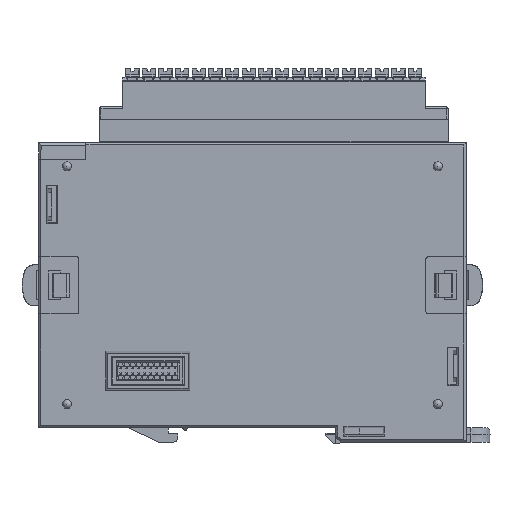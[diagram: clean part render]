
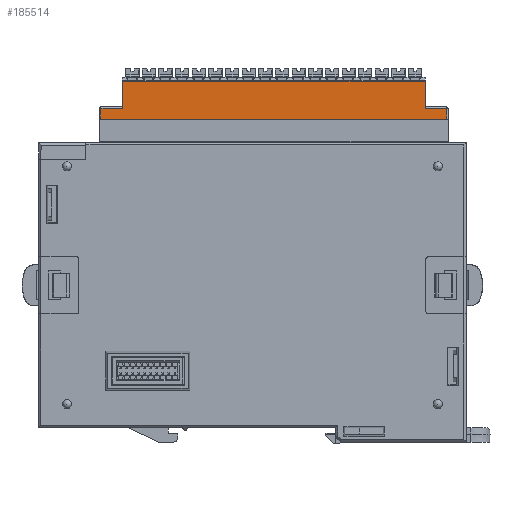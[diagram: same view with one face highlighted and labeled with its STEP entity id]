
A CAD part, left-side view. The second image highlights one B-rep face of the part: STEP entity #185514.
In plain terms, the highlighted planar face has unit normal (-1, 0, 0).
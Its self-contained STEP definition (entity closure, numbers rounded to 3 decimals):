
#2275 = ORIENTED_EDGE ( 'NONE', *, *, #194653, .T. ) ;
#6771 = VERTEX_POINT ( 'NONE', #239231 ) ;
#7921 = DIRECTION ( 'NONE',  ( 0., -1., 0. ) ) ;
#9521 = CARTESIAN_POINT ( 'NONE',  ( -17.55, 27.35, 17.2 ) ) ;
#19833 = CARTESIAN_POINT ( 'NONE',  ( -17.55, -36.35, 22.9 ) ) ;
#21238 = VERTEX_POINT ( 'NONE', #265068 ) ;
#24834 = DIRECTION ( 'NONE',  ( 0., 0., 1. ) ) ;
#25476 = CARTESIAN_POINT ( 'NONE',  ( -17.55, 23.5, 22.9 ) ) ;
#26830 = LINE ( 'NONE', #25476, #36660 ) ;
#30970 = LINE ( 'NONE', #192987, #73993 ) ;
#32727 = EDGE_CURVE ( 'NONE', #40468, #43205, #247267, .T. ) ;
#35688 = DIRECTION ( 'NONE',  ( 0., 1., 0. ) ) ;
#36660 = VECTOR ( 'NONE', #45920, 1000. ) ;
#40468 = VERTEX_POINT ( 'NONE', #228531 ) ;
#43205 = VERTEX_POINT ( 'NONE', #260724 ) ;
#45920 = DIRECTION ( 'NONE',  ( 0., 1., 0. ) ) ;
#54736 = VERTEX_POINT ( 'NONE', #246635 ) ;
#58160 = VERTEX_POINT ( 'NONE', #105611 ) ;
#58316 = CARTESIAN_POINT ( 'NONE',  ( -17.55, 31.85, 14.9 ) ) ;
#62181 = VERTEX_POINT ( 'NONE', #132135 ) ;
#67444 = EDGE_CURVE ( 'NONE', #6771, #58160, #169223, .T. ) ;
#73993 = VECTOR ( 'NONE', #7921, 1000. ) ;
#74912 = DIRECTION ( 'NONE',  ( 1., 0., 0. ) ) ;
#78505 = DIRECTION ( 'NONE',  ( 0., 0., -1. ) ) ;
#80635 = CARTESIAN_POINT ( 'NONE',  ( -17.55, 27.35, 17.2 ) ) ;
#82216 = EDGE_CURVE ( 'NONE', #43205, #6771, #140084, .T. ) ;
#93344 = ORIENTED_EDGE ( 'NONE', *, *, #32727, .T. ) ;
#104105 = EDGE_CURVE ( 'NONE', #21238, #40468, #266768, .T. ) ;
#104201 = LINE ( 'NONE', #19833, #151389 ) ;
#105611 = CARTESIAN_POINT ( 'NONE',  ( -17.55, -40.85, 17.2 ) ) ;
#110787 = EDGE_LOOP ( 'NONE', ( #175052, #198365, #175965, #2275, #156485, #120639, #93344, #143306 ) ) ;
#119254 = CARTESIAN_POINT ( 'NONE',  ( -17.55, -36.35, 17.2 ) ) ;
#119526 = VECTOR ( 'NONE', #168125, 1000. ) ;
#120639 = ORIENTED_EDGE ( 'NONE', *, *, #104105, .T. ) ;
#120884 = CARTESIAN_POINT ( 'NONE',  ( -17.55, 31.85, 17.2 ) ) ;
#123040 = VECTOR ( 'NONE', #175574, 1000. ) ;
#132135 = CARTESIAN_POINT ( 'NONE',  ( -17.55, -36.35, 22.9 ) ) ;
#138143 = EDGE_CURVE ( 'NONE', #21238, #54736, #195998, .T. ) ;
#140084 = LINE ( 'NONE', #58316, #119526 ) ;
#143306 = ORIENTED_EDGE ( 'NONE', *, *, #82216, .T. ) ;
#145779 = VECTOR ( 'NONE', #35688, 1000. ) ;
#151389 = VECTOR ( 'NONE', #78505, 1000. ) ;
#156485 = ORIENTED_EDGE ( 'NONE', *, *, #138143, .F. ) ;
#160672 = PLANE ( 'NONE',  #201669 ) ;
#163307 = CARTESIAN_POINT ( 'NONE',  ( -17.55, -36.675, 18.9 ) ) ;
#168125 = DIRECTION ( 'NONE',  ( 0., -1., 0. ) ) ;
#169223 = LINE ( 'NONE', #246683, #204697 ) ;
#173450 = VECTOR ( 'NONE', #205219, 1000. ) ;
#175052 = ORIENTED_EDGE ( 'NONE', *, *, #67444, .T. ) ;
#175574 = DIRECTION ( 'NONE',  ( 0., 0., 1. ) ) ;
#175965 = ORIENTED_EDGE ( 'NONE', *, *, #266025, .F. ) ;
#185514 = ADVANCED_FACE ( 'NONE', ( #266390 ), #160672, .F. ) ;
#192987 = CARTESIAN_POINT ( 'NONE',  ( -17.55, -36.35, 17.2 ) ) ;
#194653 = EDGE_CURVE ( 'NONE', #62181, #54736, #26830, .T. ) ;
#195998 = LINE ( 'NONE', #9521, #123040 ) ;
#198365 = ORIENTED_EDGE ( 'NONE', *, *, #241782, .F. ) ;
#201669 = AXIS2_PLACEMENT_3D ( 'NONE', #163307, #74912, #220461 ) ;
#204697 = VECTOR ( 'NONE', #24834, 1000. ) ;
#205219 = DIRECTION ( 'NONE',  ( 0., 0., -1. ) ) ;
#220461 = DIRECTION ( 'NONE',  ( 0., 1., 0. ) ) ;
#221495 = VERTEX_POINT ( 'NONE', #119254 ) ;
#228531 = CARTESIAN_POINT ( 'NONE',  ( -17.55, 31.85, 17.2 ) ) ;
#239231 = CARTESIAN_POINT ( 'NONE',  ( -17.55, -40.85, 14.9 ) ) ;
#241782 = EDGE_CURVE ( 'NONE', #221495, #58160, #30970, .T. ) ;
#246635 = CARTESIAN_POINT ( 'NONE',  ( -17.55, 27.35, 22.9 ) ) ;
#246683 = CARTESIAN_POINT ( 'NONE',  ( -17.55, -40.85, 14.9 ) ) ;
#247267 = LINE ( 'NONE', #120884, #173450 ) ;
#260724 = CARTESIAN_POINT ( 'NONE',  ( -17.55, 31.85, 14.9 ) ) ;
#265068 = CARTESIAN_POINT ( 'NONE',  ( -17.55, 27.35, 17.2 ) ) ;
#266025 = EDGE_CURVE ( 'NONE', #62181, #221495, #104201, .T. ) ;
#266390 = FACE_OUTER_BOUND ( 'NONE', #110787, .T. ) ;
#266768 = LINE ( 'NONE', #80635, #145779 ) ;
